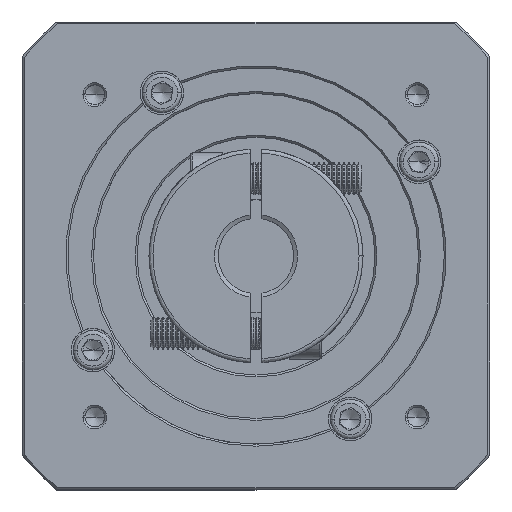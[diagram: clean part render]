
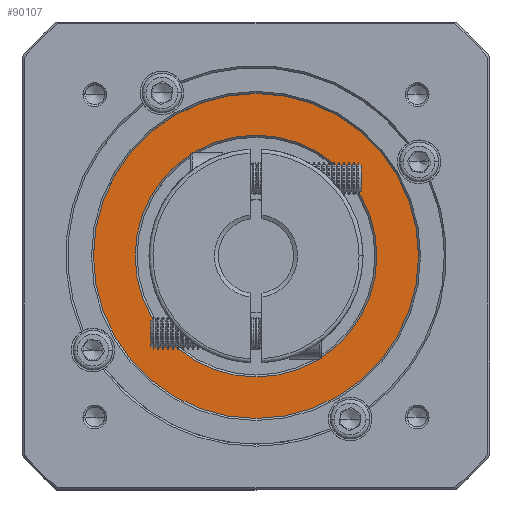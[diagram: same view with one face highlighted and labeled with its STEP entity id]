
A CAD part, top view. The second image highlights one B-rep face of the part: STEP entity #90107.
In plain terms, the highlighted planar face has unit normal (0, 0, 1).
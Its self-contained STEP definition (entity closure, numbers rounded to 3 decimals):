
#2136 = CARTESIAN_POINT ( 'NONE',  ( -35.246, -1.416, 219.502 ) ) ;
#8011 = EDGE_LOOP ( 'NONE', ( #56708, #80995 ) ) ;
#8311 = AXIS2_PLACEMENT_3D ( 'NONE', #2136, #22719, #15337 ) ;
#10309 = AXIS2_PLACEMENT_3D ( 'NONE', #70065, #16269, #26825 ) ;
#15337 = DIRECTION ( 'NONE',  ( 1., 0., 0. ) ) ;
#16269 = DIRECTION ( 'NONE',  ( 0., 0., -1. ) ) ;
#17432 = CARTESIAN_POINT ( 'NONE',  ( -35.246, -1.416, 219.502 ) ) ;
#18333 = AXIS2_PLACEMENT_3D ( 'NONE', #60507, #102220, #112811 ) ;
#19245 = FACE_BOUND ( 'NONE', #8011, .T. ) ;
#19833 = EDGE_CURVE ( 'NONE', #40822, #86511, #90550, .T. ) ;
#21175 = AXIS2_PLACEMENT_3D ( 'NONE', #17432, #121272, #121728 ) ;
#22719 = DIRECTION ( 'NONE',  ( 0., 0., 1. ) ) ;
#26825 = DIRECTION ( 'NONE',  ( 1., 0., 0. ) ) ;
#36255 = CARTESIAN_POINT ( 'NONE',  ( -35.246, -1.416, 219.502 ) ) ;
#40822 = VERTEX_POINT ( 'NONE', #133447 ) ;
#42228 = EDGE_LOOP ( 'NONE', ( #70654, #127955 ) ) ;
#47722 = CARTESIAN_POINT ( 'NONE',  ( -4.746, -1.416, 219.502 ) ) ;
#49009 = FACE_OUTER_BOUND ( 'NONE', #42228, .T. ) ;
#51022 = CIRCLE ( 'NONE', #10309, 30.5 ) ;
#56708 = ORIENTED_EDGE ( 'NONE', *, *, #103766, .T. ) ;
#57828 = CARTESIAN_POINT ( 'NONE',  ( -76.246, -1.416, 219.502 ) ) ;
#60507 = CARTESIAN_POINT ( 'NONE',  ( -35.246, -1.416, 219.502 ) ) ;
#60647 = EDGE_CURVE ( 'NONE', #119410, #119075, #51022, .T. ) ;
#68415 = DIRECTION ( 'NONE',  ( 0., 0., 1. ) ) ;
#70065 = CARTESIAN_POINT ( 'NONE',  ( -35.246, -1.416, 219.502 ) ) ;
#70274 = EDGE_CURVE ( 'NONE', #86511, #40822, #90325, .T. ) ;
#70654 = ORIENTED_EDGE ( 'NONE', *, *, #19833, .T. ) ;
#80995 = ORIENTED_EDGE ( 'NONE', *, *, #60647, .T. ) ;
#86511 = VERTEX_POINT ( 'NONE', #57828 ) ;
#90107 = ADVANCED_FACE ( 'NONE', ( #49009, #19245 ), #122452, .T. ) ;
#90325 = CIRCLE ( 'NONE', #8311, 41. ) ;
#90550 = CIRCLE ( 'NONE', #113350, 41. ) ;
#102220 = DIRECTION ( 'NONE',  ( 0., 0., 1. ) ) ;
#103766 = EDGE_CURVE ( 'NONE', #119075, #119410, #122413, .T. ) ;
#109667 = DIRECTION ( 'NONE',  ( 1., 0., 0. ) ) ;
#112811 = DIRECTION ( 'NONE',  ( 1., 0., 0. ) ) ;
#113350 = AXIS2_PLACEMENT_3D ( 'NONE', #36255, #68415, #109667 ) ;
#116444 = CARTESIAN_POINT ( 'NONE',  ( -65.746, -1.416, 219.502 ) ) ;
#119075 = VERTEX_POINT ( 'NONE', #47722 ) ;
#119410 = VERTEX_POINT ( 'NONE', #116444 ) ;
#121272 = DIRECTION ( 'NONE',  ( 0., 0., -1. ) ) ;
#121728 = DIRECTION ( 'NONE',  ( 1., 0., 0. ) ) ;
#122413 = CIRCLE ( 'NONE', #21175, 30.5 ) ;
#122452 = PLANE ( 'NONE',  #18333 ) ;
#127955 = ORIENTED_EDGE ( 'NONE', *, *, #70274, .T. ) ;
#133447 = CARTESIAN_POINT ( 'NONE',  ( 5.754, -1.416, 219.502 ) ) ;
